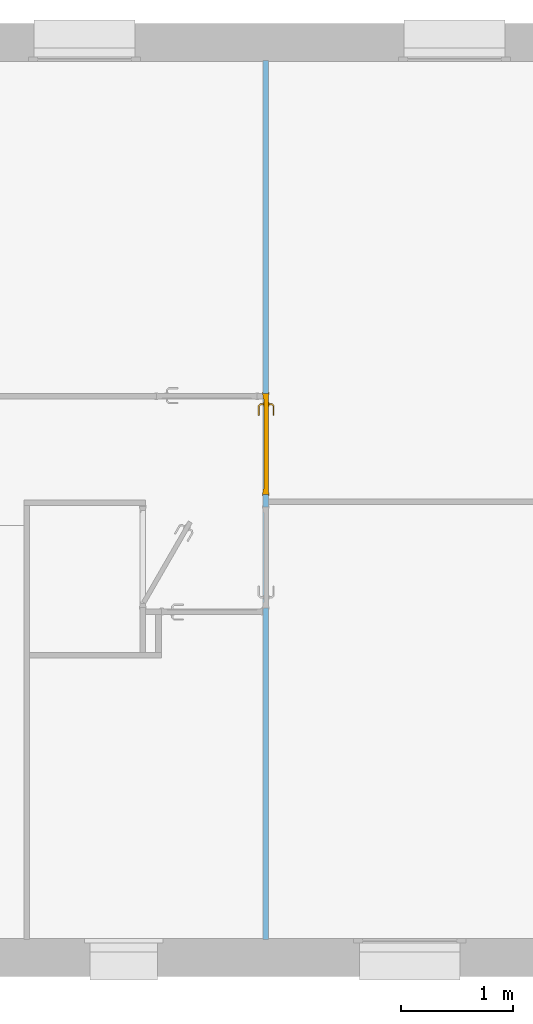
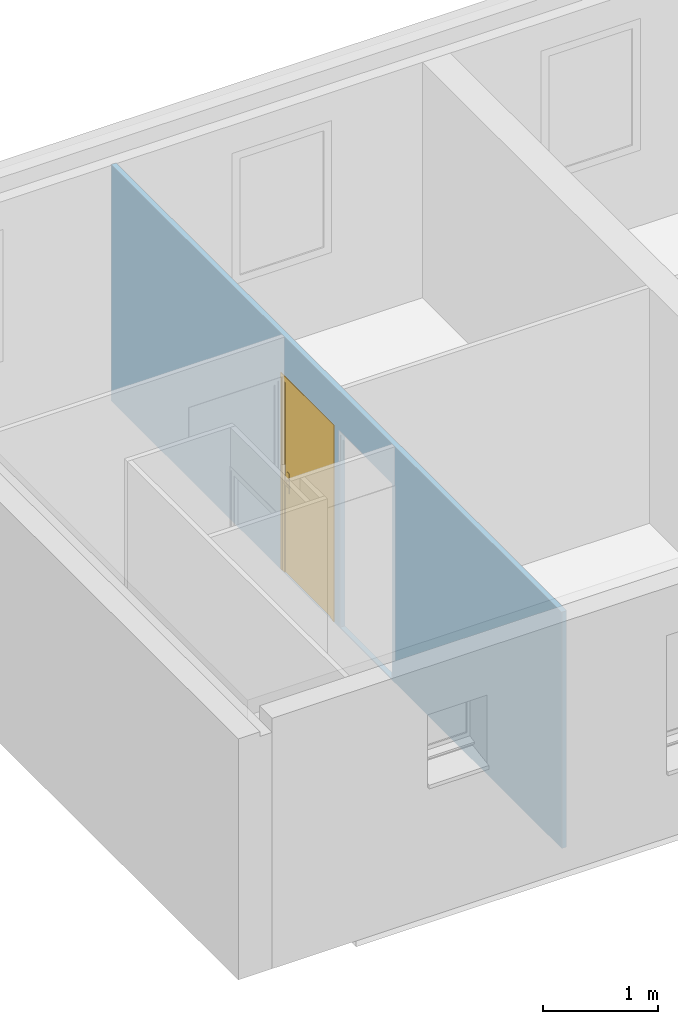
# One storey, part 6 of 13: 1 door, 3 openings, plus 1 element that does not belong to this part.
"""IFC2X3 building model written with IfcOpenShell, lengths in metres."""

from ifc_helpers import new_model, entity, si_unit, converted_unit, derived_unit, direction, frame, frame_2d, origin, place, context, subcontext, project, spatial, rectangle, extrude, faceted_brep, source, transform, mapped, material, material_list, layer, layer_set, layer_usage, type_object, type_shapes, element, fill, save


model = new_model("IFC2X3")

# Units and contexts
model_context = context("Model", 3, precision=1e-05, world=origin(), true_north=direction((6.12303176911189e-17, 1.0)))
body_context = subcontext(model_context, "Body", "Model", "MODEL_VIEW")
ifc_project = project(units=[si_unit("LENGTHUNIT", "METRE"), si_unit("AREAUNIT", "SQUARE_METRE"), si_unit("VOLUMEUNIT", "CUBIC_METRE"), converted_unit("PLANEANGLEUNIT", "DEGREE", entity("IfcRatioMeasure", 0.0174532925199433), si_unit("PLANEANGLEUNIT", "RADIAN"), dimensions=[0, 0, 0, 0, 0, 0, 0]), si_unit("MASSUNIT", "GRAM", prefix="KILO"), si_unit("TIMEUNIT", "SECOND"), si_unit("FREQUENCYUNIT", "HERTZ"), si_unit("THERMODYNAMICTEMPERATUREUNIT", "DEGREE_CELSIUS"), derived_unit("THERMALTRANSMITTANCEUNIT", [(si_unit("MASSUNIT", "GRAM", prefix="KILO"), 1), (si_unit("THERMODYNAMICTEMPERATUREUNIT", "KELVIN"), -1), (si_unit("TIMEUNIT", "SECOND"), -3)]), derived_unit("VOLUMETRICFLOWRATEUNIT", [(si_unit("LENGTHUNIT", "METRE"), 3), (si_unit("TIMEUNIT", "SECOND"), -1)]), si_unit("ELECTRICCURRENTUNIT", "AMPERE"), si_unit("ELECTRICVOLTAGEUNIT", "VOLT"), si_unit("POWERUNIT", "WATT"), si_unit("FORCEUNIT", "NEWTON", prefix="KILO"), si_unit("ILLUMINANCEUNIT", "LUX"), si_unit("LUMINOUSFLUXUNIT", "LUMEN"), si_unit("LUMINOUSINTENSITYUNIT", "CANDELA"), derived_unit("USERDEFINED", [(si_unit("MASSUNIT", "GRAM", prefix="KILO"), -1), (si_unit("LENGTHUNIT", "METRE"), -2), (si_unit("TIMEUNIT", "SECOND"), 3), (si_unit("LUMINOUSFLUXUNIT", "LUMEN"), 1)]), derived_unit("LINEARVELOCITYUNIT", [(si_unit("LENGTHUNIT", "METRE"), 1), (si_unit("TIMEUNIT", "SECOND"), -1)]), si_unit("PRESSUREUNIT", "PASCAL"), derived_unit("USERDEFINED", [(si_unit("LENGTHUNIT", "METRE"), -2), (si_unit("MASSUNIT", "GRAM", prefix="KILO"), 1), (si_unit("TIMEUNIT", "SECOND"), -2)])], contexts=[model_context])

# Site, building, storey
site_placement = place(None, origin())
site = spatial("IfcSite", under=ifc_project, at=site_placement, Name="Surface", CompositionType="ELEMENT")
building_placement = place(site_placement, origin())
building = spatial("IfcBuilding", under=site, at=building_placement, CompositionType="ELEMENT")
storey_placement = place(building_placement, frame((0.0, 0.0, 2.74)))
storey = spatial("IfcBuildingStorey", under=building, at=storey_placement, Name="Plan étage", CompositionType="ELEMENT", Elevation=2.74)

# Wall, openings, door
ifc_material_1 = material(Name="Maçonnerie - Isolant(1)")
ifc_layer = layer(ifc_material_1, 0.05)
ifc_layer_set = layer_set([ifc_layer], Name="Mur de base:Int. plâtre 50 mm")
ifc_layer_usage = layer_usage(ifc_layer_set, "AXIS2", "NEGATIVE", 0.025)
wall_type = type_object("IfcWallType", Name="Mur de base:Int. plâtre 50 mm", PredefinedType="STANDARD", material=ifc_layer_set)
wall_placement = place(storey_placement, frame((-8.17108881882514, -2.48574421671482, -0.00999999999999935), z_axis=(0.0, 0.0, 1.0), x_axis=(0.0, 1.0, 0.0)))
wall = element("IfcWallStandardCase", 1, at=wall_placement, inside=storey, type_object=wall_type, material=ifc_layer_usage, Name="Mur de base:Int. plâtre 50 mm", ObjectType="Mur de base:Int. plâtre 50 mm", context=body_context, shape_type="SweptSolid", body=[
    extrude(rectangle(XDim=7.84000000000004, YDim=0.0499999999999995, at=frame_2d((3.92000000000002, 0.0), x_axis=(-1.0, 0.0))), origin(), (0.0, 0.0, 1.0), 2.51),
])
opening_1_placement = place(wall_placement, origin())
element("IfcOpeningElement", 2, at=opening_1_placement, cuts=wall, Name="Mur de base:Int. plâtre 50 mm", ObjectType="Opening", context=body_context, shape_type="SweptSolid", body=[
    extrude(rectangle(XDim=2.075, YDim=0.05, at=frame_2d((0.0, 3.33066907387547e-16), x_axis=(0.0, 1.0))), frame((2.92500000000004, 0.0274999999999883, 1.0475), z_axis=(0.0, 1.0, 0.0), x_axis=(1.0, 0.0, 0.0)), (0.0, 0.0, 1.0), 0.9),
])
opening_2_placement = place(wall_placement, frame((3.85750000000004, 0.025, 0.00999999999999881)))
element("IfcOpeningElement", 3, at=opening_2_placement, cuts=wall, Name="Int. Simple:PP (0.83m x 2.04m):1", ObjectType="Opening", context=body_context, shape_type="SweptSolid", body=[
    extrude(rectangle(XDim=2.075, YDim=0.9, at=frame_2d((1.0375, 0.45), x_axis=(1.0, 0.0))), frame((0.0, 0.0, 0.0), z_axis=(0.0, -1.0, 0.0), x_axis=(0.0, 0.0, 1.0)), (0.0, 0.0, 1.0), 0.05),
])
opening_3_placement = place(wall_placement, frame((4.87000000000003, 0.025, 0.00999999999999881)))
opening_3 = element("IfcOpeningElement", 4, at=opening_3_placement, cuts=wall, Name="Int. Simple:PP (0.83m x 2.04m):1", ObjectType="Opening", context=body_context, shape_type="SweptSolid", body=[
    extrude(rectangle(XDim=2.075, YDim=0.9, at=frame_2d((1.0375, 0.45), x_axis=(1.0, 0.0))), frame((0.0, 0.0, 0.0), z_axis=(0.0, -1.0, 0.0), x_axis=(0.0, 0.0, 1.0)), (0.0, 0.0, 1.0), 0.05),
])
ifc_material_2 = material(Name="Finition Peinture - Blanc satiné")
ifc_material_3 = material(Name="Bois - Panneau de porte")
ifc_material_4 = material(Name="Bois - Cadre de porte")
ifc_material_list_1 = material_list([ifc_material_2, ifc_material_3, ifc_material_4])
ifc_material_list_2 = material_list([ifc_material_2, ifc_material_3, ifc_material_4])
door_style = type_object("IfcDoorStyle", Name="PP (0.83m x 2.04m)", ConstructionType="NOTDEFINED", OperationType="SINGLE_SWING_RIGHT", ParameterTakesPrecedence=False, Sizeable=False, material=ifc_material_list_2)
shared_shape = source(origin(), body_context, "Body", "Brep", [
    faceted_brep([(0.895000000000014, -0.00500000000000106, 0.870000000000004), (0.895000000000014, -0.00500000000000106, 1.08), (0.885352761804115, -0.00500000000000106, 1.08399601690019), (0.875000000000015, -0.00500000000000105, 1.08535898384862), (0.864647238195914, -0.00500000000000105, 1.08399601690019), (0.855000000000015, -0.00500000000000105, 1.08), (0.855000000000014, -0.00500000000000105, 0.870000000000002), (0.864647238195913, -0.00500000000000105, 0.866003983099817), (0.875000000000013, -0.00500000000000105, 0.86464101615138), (0.885352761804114, -0.00500000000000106, 0.866003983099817), (0.895000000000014, 0.0, 1.08), (0.895000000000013, 0.0, 0.870000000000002), (0.885352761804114, 0.0, 0.866003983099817), (0.875000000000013, 0.0, 0.86464101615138), (0.864647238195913, 0.0, 0.866003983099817), (0.855000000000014, 0.0, 0.870000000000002), (0.855000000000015, 0.0, 1.08), (0.864647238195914, 0.0, 1.08399601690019), (0.875000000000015, 0.0, 1.08535898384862), (0.885352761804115, 0.0, 1.08399601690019)], [[[0, 1, 2, 3, 4, 5, 6, 7, 8, 9]], [[10, 11, 12, 13, 14, 15, 16, 17, 18, 19]], [[9, 12, 11, 0]], [[8, 13, 12, 9]], [[7, 14, 13, 8]], [[7, 6, 15, 14]], [[15, 6, 5, 16]], [[4, 17, 16, 5]], [[3, 18, 17, 4]], [[2, 19, 18, 3]], [[2, 1, 10, 19]], [[11, 10, 1, 0]]]),
    faceted_brep([(0.895000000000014, 0.0399999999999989, 0.870000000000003), (0.895000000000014, 0.0399999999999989, 1.08), (0.885352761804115, 0.0399999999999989, 1.08399601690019), (0.875000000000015, 0.0399999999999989, 1.08535898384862), (0.864647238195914, 0.0399999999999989, 1.08399601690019), (0.855000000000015, 0.0399999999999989, 1.08), (0.855000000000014, 0.0399999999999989, 0.870000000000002), (0.864647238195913, 0.0399999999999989, 0.866003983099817), (0.875000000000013, 0.0399999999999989, 0.86464101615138), (0.885352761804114, 0.0399999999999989, 0.866003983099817), (0.875000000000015, 0.0449999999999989, 1.08535898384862), (0.885352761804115, 0.0449999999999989, 1.08399601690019), (0.895000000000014, 0.0449999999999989, 1.08), (0.895000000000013, 0.0449999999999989, 0.870000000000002), (0.885352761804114, 0.0449999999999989, 0.866003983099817), (0.875000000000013, 0.0449999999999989, 0.86464101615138), (0.864647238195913, 0.0449999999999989, 0.866003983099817), (0.855000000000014, 0.0449999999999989, 0.870000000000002), (0.855000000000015, 0.0449999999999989, 1.08), (0.864647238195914, 0.0449999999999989, 1.08399601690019)], [[[0, 1, 2, 3, 4, 5, 6, 7, 8, 9]], [[10, 11, 12, 13, 14, 15, 16, 17, 18, 19]], [[4, 19, 18, 5]], [[3, 10, 19, 4]], [[2, 11, 10, 3]], [[2, 1, 12, 11]], [[13, 12, 1, 0]], [[9, 14, 13, 0]], [[8, 15, 14, 9]], [[7, 16, 15, 8]], [[7, 6, 17, 16]], [[17, 6, 5, 18]]]),
    faceted_brep([(0.872974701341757, -0.0050000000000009, 1.00778044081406), (0.877025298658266, -0.00500000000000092, 1.00778044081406), (0.881000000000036, -0.00500000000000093, 1.00699999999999), (0.881000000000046, -0.00500000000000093, 0.992999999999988), (0.877025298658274, -0.00500000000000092, 0.99221955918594), (0.872974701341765, -0.0050000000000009, 0.992219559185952), (0.868999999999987, -0.00500000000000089, 0.993000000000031), (0.868999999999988, -0.00500000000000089, 1.007), (0.877025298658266, -0.0310045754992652, 1.00778044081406), (0.881000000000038, -0.0326509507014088, 1.007), (0.872974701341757, -0.0293267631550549, 1.00778044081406), (0.859298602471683, -0.0430028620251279, 1.00778044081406), (0.860976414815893, -0.0470534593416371, 1.00778044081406), (0.868999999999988, -0.0276803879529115, 1.007), (0.868999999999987, -0.0276803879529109, 0.993000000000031), (0.872974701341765, -0.0293267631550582, 0.992219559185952), (0.877025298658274, -0.0310045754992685, 0.99221955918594), (0.860976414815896, -0.047053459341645, 0.99221955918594), (0.859298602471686, -0.0430028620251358, 0.992219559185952), (0.881000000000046, -0.0326509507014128, 0.992999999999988), (0.862622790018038, -0.0510281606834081, 1.007), (0.85765222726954, -0.0390281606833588, 1.007), (0.857652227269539, -0.0390281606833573, 0.993000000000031), (0.862622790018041, -0.0510281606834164, 0.992999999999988), (0.774981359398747, -0.0510281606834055, 1.007), (0.774981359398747, -0.0470534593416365, 1.00778044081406), (0.774981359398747, -0.0430028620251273, 1.00778044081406), (0.774981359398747, -0.0390281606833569, 1.00699999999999), (0.774981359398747, -0.0390281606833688, 0.993000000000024), (0.774981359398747, -0.0430028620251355, 0.992219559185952), (0.774981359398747, -0.0470534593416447, 0.99221955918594), (0.774981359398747, -0.0510281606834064, 0.992999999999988), (0.81713998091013, -0.045028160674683, 1.0078786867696), (0.822692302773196, -0.051028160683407, 1.007), (0.816316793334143, -0.039028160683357, 1.007), (0.816316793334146, -0.0390281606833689, 0.993000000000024), (0.817139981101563, -0.0450281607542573, 0.992121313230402), (0.822692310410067, -0.0510281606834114, 0.992999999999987)], [[[0, 1, 2, 3, 4, 5, 6, 7]], [[2, 1, 8, 9]], [[1, 0, 10, 11, 12, 8]], [[0, 7, 13, 10]], [[14, 13, 7, 6]], [[5, 15, 14, 6]], [[5, 4, 16, 17, 18, 15]], [[3, 19, 16, 4]], [[9, 19, 3, 2]], [[9, 8, 12, 20]], [[10, 13, 21, 11]], [[22, 21, 13, 14]], [[14, 15, 18, 22]], [[16, 19, 23, 17]], [[20, 23, 19, 9]], [[24, 25, 26, 27, 28, 29, 30, 31]], [[32, 25, 33]], [[33, 25, 24]], [[33, 20, 12]], [[11, 34, 32]], [[34, 11, 21]], [[27, 26, 34]], [[32, 26, 25]], [[32, 34, 26]], [[32, 33, 12]], [[11, 32, 12]], [[21, 22, 35, 28, 27, 34]], [[36, 29, 35]], [[30, 36, 37]], [[18, 35, 22]], [[29, 28, 35]], [[30, 37, 31]], [[37, 17, 23]], [[36, 17, 37]], [[36, 18, 17]], [[36, 35, 18]], [[29, 36, 30]], [[23, 20, 33, 24, 31, 37]]]),
    faceted_brep([(0.872974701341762, 0.0449999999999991, 0.992219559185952), (0.877025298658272, 0.0449999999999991, 0.99221955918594), (0.881000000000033, 0.044999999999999, 0.992999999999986), (0.881000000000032, 0.044999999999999, 1.007), (0.877025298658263, 0.0449999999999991, 1.00778044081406), (0.872974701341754, 0.0449999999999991, 1.00778044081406), (0.868999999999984, 0.0449999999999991, 1.007), (0.868999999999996, 0.0449999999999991, 0.993000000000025), (0.868999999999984, 0.067485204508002, 1.007), (0.868999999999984, 0.0674852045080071, 0.993000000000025), (0.872974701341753, 0.0691315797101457, 1.00778044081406), (0.877025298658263, 0.070809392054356, 1.00778044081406), (0.860838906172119, 0.0869957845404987, 1.00778044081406), (0.859161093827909, 0.0829451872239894, 1.00778044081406), (0.881000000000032, 0.0724557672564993, 1.007), (0.881000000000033, 0.0724557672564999, 0.992999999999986), (0.877025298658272, 0.0708093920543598, 0.99221955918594), (0.872974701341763, 0.0691315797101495, 0.992219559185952), (0.859161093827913, 0.0829451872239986, 0.992219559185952), (0.860838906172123, 0.0869957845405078, 0.99221955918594), (0.857514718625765, 0.0789704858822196, 1.007), (0.857514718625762, 0.0789704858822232, 0.993000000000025), (0.862485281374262, 0.0909704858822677, 1.007), (0.862485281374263, 0.0909704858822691, 0.992999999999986), (0.77495421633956, 0.0829451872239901, 1.00778044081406), (0.77495421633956, 0.0869957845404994, 1.00778044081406), (0.77495421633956, 0.0909704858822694, 1.007), (0.77495421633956, 0.0909704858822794, 0.992999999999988), (0.77495421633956, 0.086995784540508, 0.99221955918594), (0.77495421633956, 0.0829451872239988, 0.992219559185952), (0.77495421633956, 0.0789704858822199, 0.993000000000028), (0.77495421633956, 0.0789704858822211, 1.007), (0.816234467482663, 0.0789704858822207, 1.007), (0.816234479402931, 0.0789704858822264, 0.993000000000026), (0.817057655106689, 0.0849704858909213, 1.0078786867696), (0.822554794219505, 0.0909704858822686, 1.007), (0.822554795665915, 0.0909704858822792, 0.992999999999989), (0.817057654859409, 0.0849704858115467, 0.992121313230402)], [[[0, 1, 2, 3, 4, 5, 6, 7]], [[8, 9, 7, 6]], [[5, 10, 8, 6]], [[5, 4, 11, 12, 13, 10]], [[3, 14, 11, 4]], [[14, 3, 2, 15]], [[2, 1, 16, 15]], [[1, 0, 17, 18, 19, 16]], [[0, 7, 9, 17]], [[20, 21, 9, 8]], [[8, 10, 13, 20]], [[14, 22, 12, 11]], [[23, 22, 14, 15]], [[15, 16, 19, 23]], [[17, 9, 21, 18]], [[24, 25, 26, 27, 28, 29, 30, 31]], [[21, 20, 32, 31, 30, 33]], [[34, 24, 32]], [[25, 34, 35]], [[13, 32, 20]], [[24, 31, 32]], [[25, 35, 26]], [[35, 12, 22]], [[34, 12, 35]], [[34, 13, 12]], [[34, 32, 13]], [[24, 34, 25]], [[22, 23, 36, 27, 26, 35]], [[37, 28, 36]], [[36, 28, 27]], [[36, 23, 19]], [[18, 33, 37]], [[33, 18, 21]], [[30, 29, 33]], [[37, 29, 28]], [[37, 33, 29]], [[37, 36, 19]], [[18, 37, 19]]]),
    faceted_brep([(0.935000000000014, 0.04, 2.04), (0.935000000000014, 0.04, 0.0), (0.105000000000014, 0.04, 0.0), (0.105000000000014, 0.04, 2.04), (0.935000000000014, 0.0, 2.04), (0.105000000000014, 0.0, 2.04), (0.105000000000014, 0.0, 0.0), (0.935000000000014, 0.0, 0.0)], [[[0, 1, 2, 3]], [[4, 5, 6, 7]], [[3, 5, 4, 0]], [[2, 6, 5, 3]], [[1, 7, 6, 2]], [[0, 4, 7, 1]]]),
    faceted_brep([(0.970000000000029, 0.0, 0.0), (0.935000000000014, 0.0, 0.0), (0.935000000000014, 0.040000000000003, 0.0), (0.920000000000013, 0.040000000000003, 0.0), (0.920000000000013, 0.050000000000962, 0.0), (0.970000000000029, 0.050000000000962, 0.0), (0.970000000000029, 0.050000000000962, 2.07500000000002), (0.970000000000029, 0.0, 2.07500000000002), (0.920000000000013, 0.050000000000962, 2.025), (0.120000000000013, 0.050000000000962, 2.025), (0.120000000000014, 0.050000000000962, 0.0), (0.0699999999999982, 0.050000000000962, 0.0), (0.0699999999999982, 0.050000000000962, 2.07500000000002), (0.920000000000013, 0.040000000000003, 2.025), (0.935000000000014, 0.040000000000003, 2.04), (0.105000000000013, 0.040000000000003, 2.04), (0.105000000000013, 0.040000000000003, 0.0), (0.120000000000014, 0.040000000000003, 0.0), (0.120000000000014, 0.040000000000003, 2.025), (0.935000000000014, 0.0, 2.04), (0.069999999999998, 0.0, 2.07500000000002), (0.0699999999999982, 0.0, 0.0), (0.105000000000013, 0.0, 0.0), (0.105000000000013, 0.0, 2.04)], [[[0, 1, 2, 3, 4, 5]], [[5, 6, 7, 0]], [[4, 8, 9, 10, 11, 12, 6, 5]], [[3, 13, 8, 4]], [[2, 14, 15, 16, 17, 18, 13, 3]], [[1, 19, 14, 2]], [[0, 7, 20, 21, 22, 23, 19, 1]], [[12, 11, 21, 20]], [[21, 11, 10, 17, 16, 22]], [[18, 17, 10, 9]], [[23, 22, 16, 15]], [[6, 12, 20, 7]], [[13, 18, 9, 8]], [[19, 23, 15, 14]]]),
    faceted_brep([(0.955000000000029, 0.050000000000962, 0.0), (0.955000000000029, 0.055000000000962, 0.0), (0.985000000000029, 0.055000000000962, 0.0), (0.985000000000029, 0.050000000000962, 0.0), (0.985000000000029, 0.050000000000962, 2.09000000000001), (0.0550000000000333, 0.050000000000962, 2.09000000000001), (0.0550000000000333, 0.050000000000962, 0.0), (0.0850000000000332, 0.050000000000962, 0.0), (0.0850000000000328, 0.050000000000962, 2.06000000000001), (0.955000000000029, 0.050000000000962, 2.06000000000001), (0.985000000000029, 0.055000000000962, 2.09000000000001), (0.955000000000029, 0.055000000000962, 2.06000000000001), (0.0850000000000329, 0.055000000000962, 2.06000000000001), (0.0850000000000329, 0.055000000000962, 0.0), (0.055000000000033, 0.055000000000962, 0.0), (0.0550000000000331, 0.055000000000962, 2.09000000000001)], [[[0, 1, 2, 3]], [[3, 4, 5, 6, 7, 8, 9, 0]], [[2, 10, 4, 3]], [[1, 11, 12, 13, 14, 15, 10, 2]], [[0, 9, 11, 1]], [[7, 6, 14, 13]], [[8, 7, 13, 12]], [[15, 14, 6, 5]], [[10, 15, 5, 4]], [[9, 8, 12, 11]]]),
    faceted_brep([(0.985000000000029, -0.005, 0.0), (0.985000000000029, -0.005, 2.09000000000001), (0.0550000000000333, -0.005, 2.09000000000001), (0.0550000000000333, -0.005, 0.0), (0.0850000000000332, -0.005, 0.0), (0.0850000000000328, -0.005, 2.06000000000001), (0.955000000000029, -0.005, 2.06000000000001), (0.955000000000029, -0.005, 0.0), (0.985000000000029, 0.0, 0.0), (0.985000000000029, 0.0, 2.09000000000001), (0.955000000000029, 0.0, 0.0), (0.955000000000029, 0.0, 2.06000000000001), (0.0850000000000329, 0.0, 2.06000000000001), (0.0850000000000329, 0.0, 0.0), (0.055000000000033, 0.0, 0.0), (0.0550000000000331, 0.0, 2.09000000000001)], [[[0, 1, 2, 3, 4, 5, 6, 7]], [[8, 9, 1, 0]], [[10, 11, 12, 13, 14, 15, 9, 8]], [[7, 6, 11, 10]], [[5, 4, 13, 12]], [[15, 14, 3, 2]], [[9, 15, 2, 1]], [[6, 5, 12, 11]], [[4, 3, 14, 13]], [[7, 10, 8, 0]]]),
])
type_shapes(door_style, [shared_shape])
door_placement = place(opening_3_placement, frame((-0.970000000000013, -0.0500000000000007, 0.0)))
door = element("IfcDoor", 5, at=door_placement, inside=storey, type_object=door_style, material=ifc_material_list_1, Name="Int. Simple:PP (0.83m x 2.04m)", ObjectType="PP (0.83m x 2.04m)", OverallHeight=2.075, OverallWidth=0.9, context=body_context, shape_type="MappedRepresentation", body=[
    mapped(shared_shape, transform((0.0, 0.0, 0.0), scale=1.0)),
])
fill(opening_3, door)

save(model, "model.ifc")
